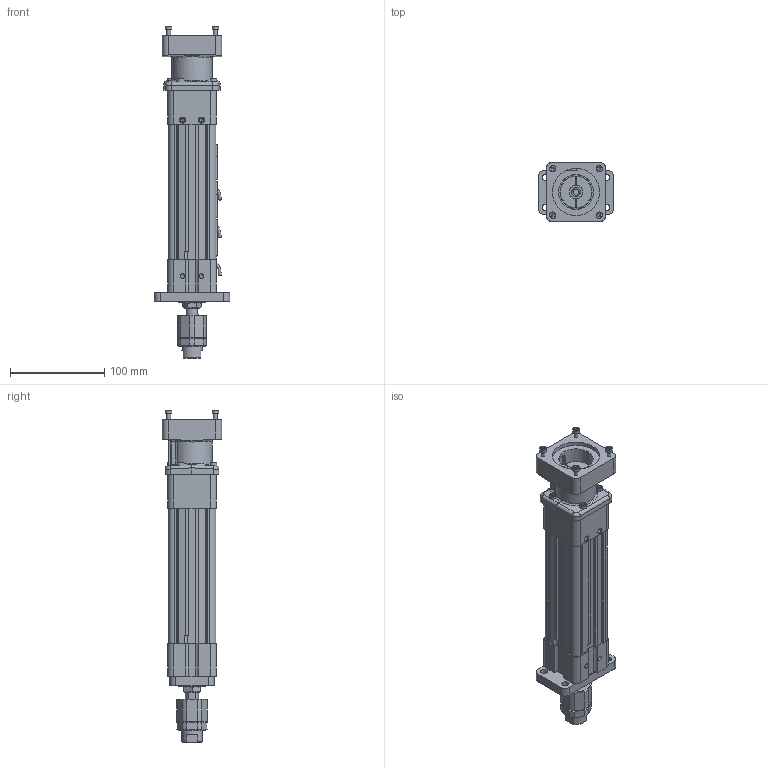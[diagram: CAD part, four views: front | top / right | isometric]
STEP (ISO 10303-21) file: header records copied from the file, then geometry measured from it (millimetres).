
FILE_DESCRIPTION (( 'STEP AP203' ), '1' );
FILE_NAME ('RSA24_BNL05_SM80.000_RS-489500-1.step', '2025-05-29T17:53:32', ( '' ), ( '' ), 'SwSTEP 2.0', 'SolidWorks 2024', '' );
FILE_SCHEMA (( 'CONFIG_CONTROL_DESIGN' ));
Length unit declared in the file: inch
Products named in the file (7): 11249810_RSA24_BNL05_SM80.000_RS-489500-1; RSA24_BNL05_SM80.000_RS-489500-1; tempJoin0_21249032_RSA24_BNL05_SM80.000_RS-489500-1; 21241070_RSA24_BNL05_SM80.000_RS-489500-1; Base_RSA24_BNL05_SM80.000_RS-489500-1; tempJoin6_45109053_RSA24_BNL05_SM80.000_RS-489500-1; tempJoin0_21249083_RSA24_BNL05_SM80.000_RS-489500-1
Assembly tree (8 placements, depth 2):
  RSA24_BNL05_SM80.000_RS-489500-1
    11249810_RSA24_BNL05_SM80.000_RS-489500-1  x3
    tempJoin0_21249032_RSA24_BNL05_SM80.000_RS-489500-1
    21241070_RSA24_BNL05_SM80.000_RS-489500-1
    tempJoin6_45109053_RSA24_BNL05_SM80.000_RS-489500-1
    tempJoin0_21249083_RSA24_BNL05_SM80.000_RS-489500-1
    Base_RSA24_BNL05_SM80.000_RS-489500-1
Bounding box: 80 x 63.17 x 352.46 mm (x, y, z)
Volume: 634148.3 mm3; surface area: 172154.5 mm2
Topology: 12 solids, 34 shells, 1524 faces, 3762 edges, 2469 vertices
Faces by surface type: plane 869, cylinder 337, bspline 219, cone 77, torus 22
Full cylindrical faces by diameter (mm): 1 x6, 1.981 x2, 2.25 x6, 2.5 x13, 2.921 x4, 3.299 x4, 3.3 x8, 3.969 x2, 3.988 x2, 4 x21, 4.2 x4, 4.572 x1, 4.623 x4, 4.826 x4, 5 x10, 5.001 x2, 5.613 x4, 6.25 x2, 6.35 x2, 7 x13, 7.2 x4, 7.874 x4, 7.973 x1, 8.5 x12, 8.8 x2, 9.652 x12, 9.906 x1, 9.972 x1, 14 x1, 21.844 x1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
Entity records: 35830 total; most frequent: CARTESIAN_POINT 9923, DIRECTION 5022, ORIENTED_EDGE 4912, EDGE_CURVE 2456, AXIS2_PLACEMENT_3D 1797, VERTEX_POINT 1718, EDGE_LOOP 1536, LINE 1428
